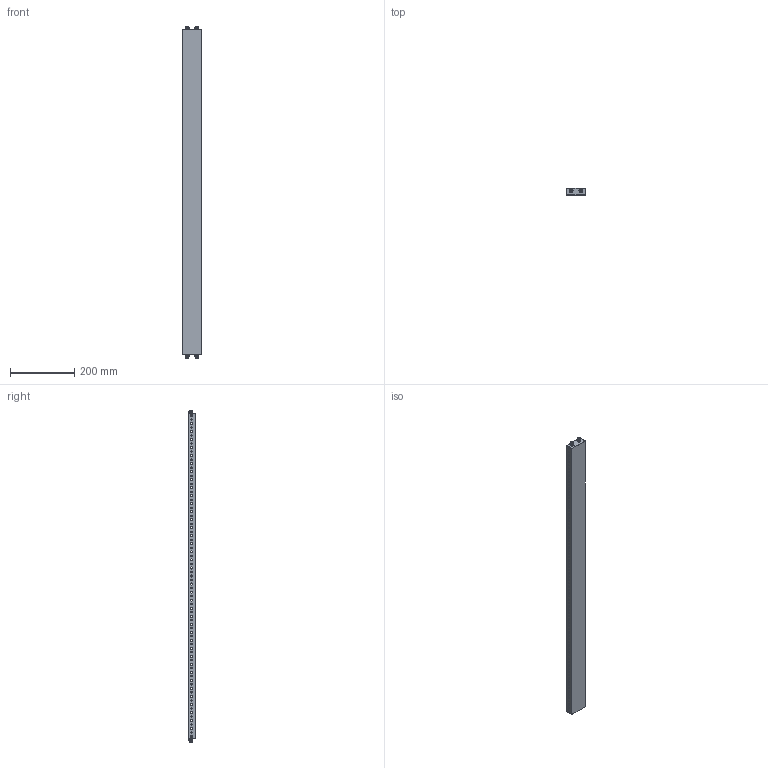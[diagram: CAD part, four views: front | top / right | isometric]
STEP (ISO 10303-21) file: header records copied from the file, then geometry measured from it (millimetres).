
FILE_DESCRIPTION(('Open CASCADE Model'),'2;1');
FILE_NAME('Open CASCADE Shape Model','2025-02-28T14:45:32',('Author'),( 'Open CASCADE'),'Open CASCADE STEP processor 7.8','Open CASCADE 7.8' ,'Unknown');
FILE_SCHEMA(('AUTOMOTIVE_DESIGN { 1 0 10303 214 1 1 1 1 }'));
Length unit declared in the file: millimetre
Products named in the file (5): Compound1; Solid1; Solid2; Solid3; Solid4
Assembly tree (13 placements, depth 2):
  Compound1
    Solid1
    Solid2  x4
    Solid3  x4
    Solid4  x4
Bounding box: 60.5 x 23 x 1034.2 mm (x, y, z)
Volume: 160838.4 mm3; surface area: 221834.4 mm2
Topology: 13 solids, 13 shells, 938 faces, 2660 edges, 1740 vertices
Faces by surface type: cylinder 564, plane 326, cone 32, torus 16
Entity records: 17936 total; most frequent: DIRECTION 3214, CARTESIAN_POINT 3192, ORIENTED_EDGE 2928, EDGE_CURVE 1464, AXIS2_PLACEMENT_3D 1285, VERTEX_POINT 969, FACE_BOUND 843, EDGE_LOOP 843
